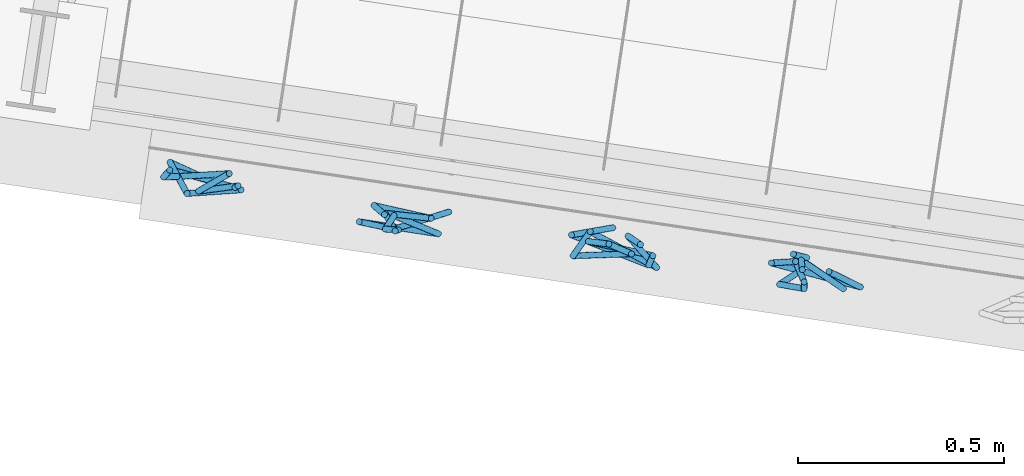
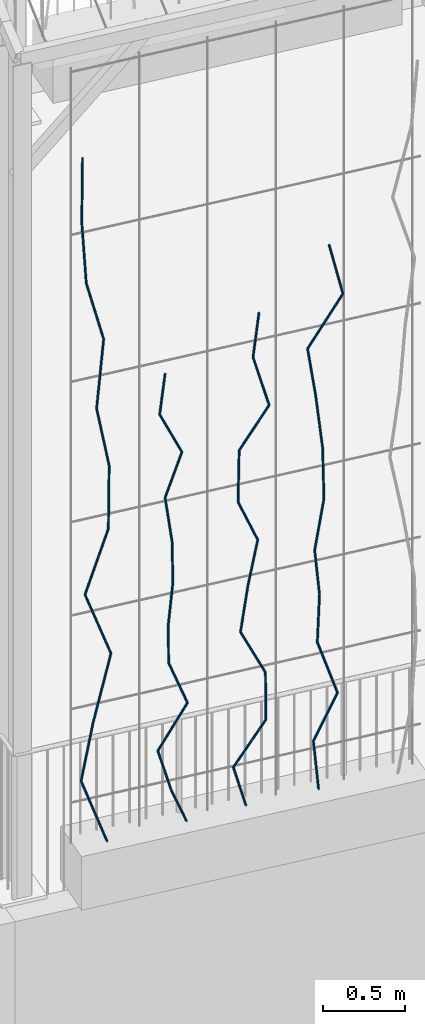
# One storey, part 102 of 142: 44 members, 1 element without a shape of its own.
"""IFC4 building model written with IfcOpenShell, lengths in metres."""

from ifc_helpers import new_model, si_unit, direction, frame, origin_with_axes, place, context, subcontext, project, spatial, circle, extrude, material, material_profile, profile_set, profile_usage, type_object, element, aggregate, save


model = new_model("IFC4")

# Units and contexts
model_context = context("Model", 3, precision=1e-05, world=origin_with_axes(), true_north=direction((0.0, 1.0)))
body_context = subcontext(model_context, "Body", "Model", "MODEL_VIEW")
ifc_project = project(units=[si_unit("VOLUMEUNIT", "CUBIC_METRE"), si_unit("LENGTHUNIT", "METRE"), si_unit("AREAUNIT", "SQUARE_METRE")], contexts=[model_context])

# Site, building, storey
site_placement = place(None, origin_with_axes())
site = spatial("IfcSite", under=ifc_project, at=site_placement, Name="Lares · Rua das Mercês · artigo 4771")
building_placement = place(site_placement, frame((12.0, 10.2, 13.9), z_axis=(0.0, 0.0, 1.0), x_axis=(0.989015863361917, -0.147809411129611, 0.0)))
building = spatial("IfcBuilding", under=site, at=building_placement, Name="Casa Sobreposta")
storey_placement = place(building_placement, origin_with_axes())
storey = spatial("IfcBuildingStorey", under=building, at=storey_placement, Name="00 · Habitação e estacionamento", Elevation=13.9)

# Assembly, members
assembly_placement = place(storey_placement, origin_with_axes())
assembly = element("IfcElementAssembly", 1, at=assembly_placement, inside=storey, Name="Fachada sul e pátio · estrutura e trepadeiras", ObjectType="LIVING_SHADE_TRELLIS", PredefinedType="USERDEFINED")
ifc_material = material(Name="Ramos de trepadeiras", Category="wood")
ifc_material_profile = material_profile(ifc_material, circle(Radius=0.0075))
ifc_profile_set = profile_set([ifc_material_profile], Name="D0.015")
ifc_profile_usage_1 = profile_usage(ifc_profile_set)
member_type = type_object("IfcMemberType", Name="D0.015 / vine_wood", PredefinedType="NOTDEFINED", material=ifc_profile_set)
member_1_placement = place(assembly_placement, frame((-5.48911948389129, -1.68313375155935, 0.35), z_axis=(-0.315042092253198, 0.0911891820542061, 0.944686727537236), x_axis=(0.278037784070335, 0.960570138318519, 0.0)))
member_1 = element("IfcMember", 2, at=member_1_placement, type_object=member_type, material=ifc_profile_usage_1, Name="Trepadeiras · ramo", context=body_context, shape_type="SweptSolid", body=[
    extrude(circle(Radius=0.0075), origin_with_axes(), (0.0, 0.0, 1.0), 0.495129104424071),
])
ifc_profile_usage_2 = profile_usage(ifc_profile_set)
member_2_placement = place(assembly_placement, frame((-5.64510599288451, -1.63798333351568, 0.817741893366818), z_axis=(0.109502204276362, -0.145033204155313, 0.983348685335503), x_axis=(-0.798074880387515, -0.602558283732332, 0.0)))
member_2 = element("IfcMember", 3, at=member_2_placement, type_object=member_type, material=ifc_profile_usage_2, Name="Trepadeiras · ramo", context=body_context, shape_type="SweptSolid", body=[
    extrude(circle(Radius=0.0075), origin_with_axes(), (0.0, 0.0, 1.0), 0.475662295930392),
])
ifc_profile_usage_3 = profile_usage(ifc_profile_set)
member_3_placement = place(assembly_placement, frame((-5.59301992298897, -1.70697016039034, 1.28548378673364), z_axis=(0.265195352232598, 0.0579298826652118, 0.962452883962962), x_axis=(0.213409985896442, -0.976962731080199, 0.0)))
member_3 = element("IfcMember", 4, at=member_3_placement, type_object=member_type, material=ifc_profile_usage_3, Name="Trepadeiras · ramo", context=body_context, shape_type="SweptSolid", body=[
    extrude(circle(Radius=0.0075), origin_with_axes(), (0.0, 0.0, 1.0), 0.485989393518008),
])
ifc_profile_usage_4 = profile_usage(ifc_profile_set)
member_4_placement = place(assembly_placement, frame((-5.46413779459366, -1.67881685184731, 1.75322568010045), z_axis=(-0.32848864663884, 0.0430845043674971, 0.943524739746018), x_axis=(0.130045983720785, 0.991507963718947, 0.0)))
member_4 = element("IfcMember", 5, at=member_4_placement, type_object=member_type, material=ifc_profile_usage_4, Name="Trepadeiras · ramo", context=body_context, shape_type="SweptSolid", body=[
    extrude(circle(Radius=0.0075), origin_with_axes(), (0.0, 0.0, 1.0), 0.495738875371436),
])
ifc_profile_usage_5 = profile_usage(ifc_profile_set)
member_5_placement = place(assembly_placement, frame((-5.62698238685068, -1.65745818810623, 2.22096757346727), z_axis=(0.300174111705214, -0.0360648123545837, 0.953202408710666), x_axis=(-0.119288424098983, -0.992859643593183, 0.0)))
member_5 = element("IfcMember", 6, at=member_5_placement, type_object=member_type, material=ifc_profile_usage_5, Name="Trepadeiras · ramo", context=body_context, shape_type="SweptSolid", body=[
    extrude(circle(Radius=0.0075), origin_with_axes(), (0.0, 0.0, 1.0), 0.490705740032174),
])
ifc_profile_usage_6 = profile_usage(ifc_profile_set)
member_6_placement = place(assembly_placement, frame((-5.47968522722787, -1.6751553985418, 2.68870946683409), z_axis=(0.0147543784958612, 0.0109734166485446, 0.999830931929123), x_axis=(0.999891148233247, -0.000161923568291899, -0.0147534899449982)))
member_6 = element("IfcMember", 7, at=member_6_placement, type_object=member_type, material=ifc_profile_usage_6, Name="Trepadeiras · ramo", context=body_context, shape_type="SweptSolid", body=[
    extrude(circle(Radius=0.0075), origin_with_axes(), (0.0, 0.0, 1.0), 0.467820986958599),
])
ifc_profile_usage_7 = profile_usage(ifc_profile_set)
member_7_placement = place(assembly_placement, frame((-5.47278281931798, -1.67002180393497, 3.15645136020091), z_axis=(-0.19496267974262, -0.0566235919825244, 0.979174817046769), x_axis=(-0.278907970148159, 0.960317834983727, 0.0)))
member_7 = element("IfcMember", 8, at=member_7_placement, type_object=member_type, material=ifc_profile_usage_7, Name="Trepadeiras · ramo", context=body_context, shape_type="SweptSolid", body=[
    extrude(circle(Radius=0.0075), origin_with_axes(), (0.0, 0.0, 1.0), 0.477689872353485),
])
ifc_profile_usage_8 = profile_usage(ifc_profile_set)
member_8_placement = place(assembly_placement, frame((-5.56591451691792, -1.6970703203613, 3.62419325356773), z_axis=(0.141678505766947, 0.112006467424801, 0.983555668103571), x_axis=(0.620172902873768, -0.784465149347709, 0.0)))
member_8 = element("IfcMember", 9, at=member_8_placement, type_object=member_type, material=ifc_profile_usage_8, Name="Trepadeiras · ramo", context=body_context, shape_type="SweptSolid", body=[
    extrude(circle(Radius=0.0075), origin_with_axes(), (0.0, 0.0, 1.0), 0.475562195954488),
])
ifc_profile_usage_9 = profile_usage(ifc_profile_set)
member_9_placement = place(assembly_placement, frame((-5.49853757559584, -1.64380427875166, 4.09193514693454), z_axis=(-0.257789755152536, -0.0541962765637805, 0.964679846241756), x_axis=(-0.205736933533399, 0.97860733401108, 0.0)))
member_9 = element("IfcMember", 10, at=member_9_placement, type_object=member_type, material=ifc_profile_usage_9, Name="Trepadeiras · ramo", context=body_context, shape_type="SweptSolid", body=[
    extrude(circle(Radius=0.0075), origin_with_axes(), (0.0, 0.0, 1.0), 0.484867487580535),
])
ifc_profile_usage_10 = profile_usage(ifc_profile_set)
member_10_placement = place(assembly_placement, frame((-5.62353144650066, -1.67008229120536, 4.55967704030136), z_axis=(-0.0676309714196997, -0.0113503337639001, 0.997645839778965), x_axis=(-0.165512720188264, 0.986207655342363, 0.0)))
member_10 = element("IfcMember", 11, at=member_10_placement, type_object=member_type, material=ifc_profile_usage_10, Name="Trepadeiras · ramo", context=body_context, shape_type="SweptSolid", body=[
    extrude(circle(Radius=0.0075), origin_with_axes(), (0.0, 0.0, 1.0), 0.468845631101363),
])
ifc_profile_usage_11 = profile_usage(ifc_profile_set)
member_11_placement = place(assembly_placement, frame((-5.65523993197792, -1.67540384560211, 5.02741893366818), z_axis=(0.0261045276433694, 0.0393084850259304, 0.99888607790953), x_axis=(0.833038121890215, -0.55321558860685, 0.0)))
member_11 = element("IfcMember", 12, at=member_11_placement, type_object=member_type, material=ifc_profile_usage_11, Name="Trepadeiras · ramo", context=body_context, shape_type="SweptSolid", body=[
    extrude(circle(Radius=0.0075), origin_with_axes(), (0.0, 0.0, 1.0), 0.468263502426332),
])
ifc_profile_usage_12 = profile_usage(ifc_profile_set)
member_12_placement = place(assembly_placement, frame((-4.95624243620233, -1.65711223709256, 0.35), z_axis=(-0.372606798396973, -0.180190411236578, 0.910327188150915), x_axis=(-0.435358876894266, 0.90025699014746, 0.0)))
member_12 = element("IfcMember", 13, at=member_12_placement, type_object=member_type, material=ifc_profile_usage_12, Name="Trepadeiras · ramo", context=body_context, shape_type="SweptSolid", body=[
    extrude(circle(Radius=0.0075), origin_with_axes(), (0.0, 0.0, 1.0), 0.340683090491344),
])
ifc_profile_usage_13 = profile_usage(ifc_profile_set)
member_13_placement = place(assembly_placement, frame((-5.0831832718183, -1.71850006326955, 0.660133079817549), z_axis=(-0.265741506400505, 0.0171143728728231, 0.963892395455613), x_axis=(0.0642691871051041, 0.997932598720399, 0.0)))
member_13 = element("IfcMember", 14, at=member_13_placement, type_object=member_type, material=ifc_profile_usage_13, Name="Trepadeiras · ramo", context=body_context, shape_type="SweptSolid", body=[
    extrude(circle(Radius=0.0075), origin_with_axes(), (0.0, 0.0, 1.0), 0.321750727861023),
])
ifc_profile_usage_14 = profile_usage(ifc_profile_set)
member_14_placement = place(assembly_placement, frame((-5.16868579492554, -1.71299350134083, 0.970266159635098), z_axis=(0.532535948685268, -0.00176824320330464, 0.84640553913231), x_axis=(-0.00332040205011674, -0.999994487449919, 0.0)))
member_14 = element("IfcMember", 15, at=member_14_placement, type_object=member_type, material=ifc_profile_usage_14, Name="Trepadeiras · ramo", context=body_context, shape_type="SweptSolid", body=[
    extrude(circle(Radius=0.0075), origin_with_axes(), (0.0, 0.0, 1.0), 0.366411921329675),
])
ifc_profile_usage_15 = profile_usage(ifc_profile_set)
member_15_placement = place(assembly_placement, frame((-4.97355827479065, -1.71364140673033, 1.28039923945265), z_axis=(-0.342385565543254, 0.0839938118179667, 0.935797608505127), x_axis=(0.238254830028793, 0.971202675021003, 0.0)))
member_15 = element("IfcMember", 16, at=member_15_placement, type_object=member_type, material=ifc_profile_usage_15, Name="Trepadeiras · ramo", context=body_context, shape_type="SweptSolid", body=[
    extrude(circle(Radius=0.0075), origin_with_axes(), (0.0, 0.0, 1.0), 0.331410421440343),
])
ifc_profile_usage_16 = profile_usage(ifc_profile_set)
member_16_placement = place(assembly_placement, frame((-5.08702841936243, -1.68580498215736, 1.5905323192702), z_axis=(-0.0515930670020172, -0.113887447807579, 0.992153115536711), x_axis=(-0.910889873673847, 0.412649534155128, 0.0)))
member_16 = element("IfcMember", 17, at=member_16_placement, type_object=member_type, material=ifc_profile_usage_16, Name="Trepadeiras · ramo", context=body_context, shape_type="SweptSolid", body=[
    extrude(circle(Radius=0.0075), origin_with_axes(), (0.0, 0.0, 1.0), 0.312585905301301),
])
ifc_profile_usage_17 = profile_usage(ifc_profile_set)
member_17_placement = place(assembly_placement, frame((-5.10315568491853, -1.72140459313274, 1.90066539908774), z_axis=(0.1015760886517, 0.00912740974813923, 0.994785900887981), x_axis=(0.0894972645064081, -0.995987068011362, 0.0)))
member_17 = element("IfcMember", 18, at=member_17_placement, type_object=member_type, material=ifc_profile_usage_17, Name="Trepadeiras · ramo", context=body_context, shape_type="SweptSolid", body=[
    extrude(circle(Radius=0.0075), origin_with_axes(), (0.0, 0.0, 1.0), 0.3117586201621),
])
ifc_profile_usage_18 = profile_usage(ifc_profile_set)
member_18_placement = place(assembly_placement, frame((-5.07148846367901, -1.71855904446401, 2.21079847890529), z_axis=(-0.0234443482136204, -0.011723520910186, 0.999656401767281), x_axis=(0.99972514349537, -0.00027492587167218, 0.0234427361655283)))
member_18 = element("IfcMember", 19, at=member_18_placement, type_object=member_type, material=ifc_profile_usage_18, Name="Trepadeiras · ramo", context=body_context, shape_type="SweptSolid", body=[
    extrude(circle(Radius=0.0075), origin_with_axes(), (0.0, 0.0, 1.0), 0.310239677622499),
])
ifc_profile_usage_19 = profile_usage(ifc_profile_set)
member_19_placement = place(assembly_placement, frame((-5.07876183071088, -1.72219614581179, 2.52093155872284), z_axis=(-0.0967626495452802, 0.123757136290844, 0.987583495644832), x_axis=(0.787785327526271, 0.615949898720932, 1.09054029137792e-17)))
member_19 = element("IfcMember", 20, at=member_19_placement, type_object=member_type, material=ifc_profile_usage_19, Name="Trepadeiras · ramo", context=body_context, shape_type="SweptSolid", body=[
    extrude(circle(Radius=0.0075), origin_with_axes(), (0.0, 0.0, 1.0), 0.31403226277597),
])
ifc_profile_usage_20 = profile_usage(ifc_profile_set)
member_20_placement = place(assembly_placement, frame((-5.10914842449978, -1.6833324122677, 2.83106463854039), z_axis=(0.341305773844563, 0.0133539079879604, 0.939857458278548), x_axis=(0.0390960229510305, -0.999235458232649, 0.0)))
member_20 = element("IfcMember", 21, at=member_20_placement, type_object=member_type, material=ifc_profile_usage_20, Name="Trepadeiras · ramo", context=body_context, shape_type="SweptSolid", body=[
    extrude(circle(Radius=0.0075), origin_with_axes(), (0.0, 0.0, 1.0), 0.329978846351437),
])
ifc_profile_usage_21 = profile_usage(ifc_profile_set)
member_21_placement = place(assembly_placement, frame((-4.99652473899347, -1.67892590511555, 3.14119771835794), z_axis=(-0.417229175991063, 0.0301594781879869, 0.908300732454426), x_axis=(0.0720970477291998, 0.997397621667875, 0.0)))
member_21 = element("IfcMember", 22, at=member_21_placement, type_object=member_type, material=ifc_profile_usage_21, Name="Trepadeiras · ramo", context=body_context, shape_type="SweptSolid", body=[
    extrude(circle(Radius=0.0075), origin_with_axes(), (0.0, 0.0, 1.0), 0.34144316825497),
])
ifc_profile_usage_22 = profile_usage(ifc_profile_set)
member_22_placement = place(assembly_placement, frame((-5.13898479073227, -1.66862815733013, 3.45133079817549), z_axis=(0.090956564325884, -0.0586912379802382, 0.99412385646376), x_axis=(-0.542189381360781, -0.840256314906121, 7.96559999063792e-18)))
member_22 = element("IfcMember", 23, at=member_22_placement, type_object=member_type, material=ifc_profile_usage_22, Name="Trepadeiras · ramo", context=body_context, shape_type="SweptSolid", body=[
    extrude(circle(Radius=0.0075), origin_with_axes(), (0.0, 0.0, 1.0), 0.311966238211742),
])
ifc_profile_usage_23 = profile_usage(ifc_profile_set)
member_23_placement = place(assembly_placement, frame((-4.55634403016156, -1.63616228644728, 0.35), z_axis=(-0.276433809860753, -0.091900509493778, 0.95662879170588), x_axis=(-0.315473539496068, 0.948934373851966, 0.0)))
member_23 = element("IfcMember", 24, at=member_23_placement, type_object=member_type, material=ifc_profile_usage_23, Name="Trepadeiras · ramo", context=body_context, shape_type="SweptSolid", body=[
    extrude(circle(Radius=0.0075), origin_with_axes(), (0.0, 0.0, 1.0), 0.351118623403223),
])
ifc_profile_usage_24 = profile_usage(ifc_profile_set)
member_24_placement = place(assembly_placement, frame((-4.65340508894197, -1.66843026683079, 0.685890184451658), z_axis=(0.502481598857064, -0.114154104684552, 0.857018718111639), x_axis=(-0.221535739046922, -0.975152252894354, 0.0)))
member_24 = element("IfcMember", 25, at=member_24_placement, type_object=member_type, material=ifc_profile_usage_24, Name="Trepadeiras · ramo", context=body_context, shape_type="SweptSolid", body=[
    extrude(circle(Radius=0.0075), origin_with_axes(), (0.0, 0.0, 1.0), 0.391928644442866),
])
ifc_profile_usage_25 = profile_usage(ifc_profile_set)
member_25_placement = place(assembly_placement, frame((-4.45646815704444, -1.7131705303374, 1.02178036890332), z_axis=(0.0188669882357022, 0.0713857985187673, 0.997270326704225), x_axis=(0.966803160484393, -0.255522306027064, 0.0)))
member_25 = element("IfcMember", 26, at=member_25_placement, type_object=member_type, material=ifc_profile_usage_25, Name="Trepadeiras · ramo", context=body_context, shape_type="SweptSolid", body=[
    extrude(circle(Radius=0.0075), origin_with_axes(), (0.0, 0.0, 1.0), 0.336809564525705),
])
ifc_profile_usage_26 = profile_usage(ifc_profile_set)
member_26_placement = place(assembly_placement, frame((-4.45011357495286, -1.68912711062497, 1.35767055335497), z_axis=(-0.429996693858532, 0.0300139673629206, 0.902331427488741), x_axis=(0.0696310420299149, 0.997572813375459, 0.0)))
member_26 = element("IfcMember", 27, at=member_26_placement, type_object=member_type, material=ifc_profile_usage_26, Name="Trepadeiras · ramo", context=body_context, shape_type="SweptSolid", body=[
    extrude(circle(Radius=0.0075), origin_with_axes(), (0.0, 0.0, 1.0), 0.372247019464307),
])
ifc_profile_usage_27 = profile_usage(ifc_profile_set)
member_27_placement = place(assembly_placement, frame((-4.61017856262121, -1.67795450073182, 1.69356073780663), z_axis=(0.146859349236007, 0.0033807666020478, 0.989151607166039), x_axis=(0.0230143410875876, -0.999735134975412, 0.0)))
member_27 = element("IfcMember", 28, at=member_27_placement, type_object=member_type, material=ifc_profile_usage_27, Name="Trepadeiras · ramo", context=body_context, shape_type="SweptSolid", body=[
    extrude(circle(Radius=0.0075), origin_with_axes(), (0.0, 0.0, 1.0), 0.339574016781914),
])
ifc_profile_usage_28 = profile_usage(ifc_profile_set)
member_28_placement = place(assembly_placement, frame((-4.56030894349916, -1.67680648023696, 2.02945092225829), z_axis=(0.170700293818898, -0.0452708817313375, 0.984282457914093), x_axis=(-0.256345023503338, -0.96658534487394, 0.0)))
member_28 = element("IfcMember", 29, at=member_28_placement, type_object=member_type, material=ifc_profile_usage_28, Name="Trepadeiras · ramo", context=body_context, shape_type="SweptSolid", body=[
    extrude(circle(Radius=0.0075), origin_with_axes(), (0.0, 0.0, 1.0), 0.341253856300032),
])
ifc_profile_usage_29 = profile_usage(ifc_profile_set)
member_29_placement = place(assembly_placement, frame((-4.50205680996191, -1.69225534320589, 2.36534110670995), z_axis=(-0.383356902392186, -0.0703629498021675, 0.920916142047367), x_axis=(-0.180528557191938, 0.983569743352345, 0.0)))
member_29 = element("IfcMember", 30, at=member_29_placement, type_object=member_type, material=ifc_profile_usage_29, Name="Trepadeiras · ramo", context=body_context, shape_type="SweptSolid", body=[
    extrude(circle(Radius=0.0075), origin_with_axes(), (0.0, 0.0, 1.0), 0.364734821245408),
])
ifc_profile_usage_30 = profile_usage(ifc_profile_set)
member_30_placement = place(assembly_placement, frame((-4.64188042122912, -1.71791916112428, 2.7012312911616), z_axis=(0.0946545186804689, 0.187214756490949, 0.977748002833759), x_axis=(0.8924216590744, -0.451202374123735, 0.0)))
member_30 = element("IfcMember", 31, at=member_30_placement, type_object=member_type, material=ifc_profile_usage_30, Name="Trepadeiras · ramo", context=body_context, shape_type="SweptSolid", body=[
    extrude(circle(Radius=0.0075), origin_with_axes(), (0.0, 0.0, 1.0), 0.343534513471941),
])
ifc_profile_usage_31 = profile_usage(ifc_profile_set)
member_31_placement = place(assembly_placement, frame((-4.6093633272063, -1.65360443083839, 3.03712147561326), z_axis=(0.451634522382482, -0.164332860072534, 0.876938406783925), x_axis=(-0.341930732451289, -0.939725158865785, 0.0)))
member_31 = element("IfcMember", 32, at=member_31_placement, type_object=member_type, material=ifc_profile_usage_31, Name="Trepadeiras · ramo", context=body_context, shape_type="SweptSolid", body=[
    extrude(circle(Radius=0.0075), origin_with_axes(), (0.0, 0.0, 1.0), 0.383025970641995),
])
ifc_profile_usage_32 = profile_usage(ifc_profile_set)
member_32_placement = place(assembly_placement, frame((-4.43637557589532, -1.71654818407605, 3.37301166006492), z_axis=(-0.228861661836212, 0.18656509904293, 0.955413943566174), x_axis=(0.631846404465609, 0.775093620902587, -2.24524086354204e-17)))
member_32 = element("IfcMember", 33, at=member_32_placement, type_object=member_type, material=ifc_profile_usage_32, Name="Trepadeiras · ramo", context=body_context, shape_type="SweptSolid", body=[
    extrude(circle(Radius=0.0075), origin_with_axes(), (0.0, 0.0, 1.0), 0.35156508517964),
])
ifc_profile_usage_33 = profile_usage(ifc_profile_set)
member_33_placement = place(assembly_placement, frame((-4.51683534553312, -1.65095840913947, 3.70890184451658), z_axis=(0.0978677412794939, -0.0463181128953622, 0.99412098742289), x_axis=(-0.427782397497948, -0.903881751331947, 0.0)))
member_33 = element("IfcMember", 34, at=member_33_placement, type_object=member_type, material=ifc_profile_usage_33, Name="Trepadeiras · ramo", context=body_context, shape_type="SweptSolid", body=[
    extrude(circle(Radius=0.0075), origin_with_axes(), (0.0, 0.0, 1.0), 0.337876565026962),
])
ifc_profile_usage_34 = profile_usage(ifc_profile_set)
member_34_placement = place(assembly_placement, frame((-4.07927187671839, -1.63851140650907, 0.35), z_axis=(-0.089545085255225, 0.00938715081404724, 0.995938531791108), x_axis=(0.10426023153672, 0.994550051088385, 0.0)))
member_34 = element("IfcMember", 35, at=member_34_placement, type_object=member_type, material=ifc_profile_usage_34, Name="Trepadeiras · ramo", context=body_context, shape_type="SweptSolid", body=[
    extrude(circle(Radius=0.0075), origin_with_axes(), (0.0, 0.0, 1.0), 0.372705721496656),
])
ifc_profile_usage_35 = profile_usage(ifc_profile_set)
member_35_placement = place(assembly_placement, frame((-4.11264584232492, -1.63501276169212, 0.721191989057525), z_axis=(0.333010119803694, -0.163515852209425, 0.928637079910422), x_axis=(-0.440756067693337, -0.897626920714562, 0.0)))
member_35 = element("IfcMember", 36, at=member_35_placement, type_object=member_type, material=ifc_profile_usage_35, Name="Trepadeiras · ramo", context=body_context, shape_type="SweptSolid", body=[
    extrude(circle(Radius=0.0075), origin_with_axes(), (0.0, 0.0, 1.0), 0.399716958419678),
])
ifc_profile_usage_36 = profile_usage(ifc_profile_set)
member_36_placement = place(assembly_placement, frame((-3.97953605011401, -1.70037282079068, 1.09238397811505), z_axis=(-0.285562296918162, 0.137481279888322, 0.948447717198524), x_axis=(0.433785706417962, 0.901016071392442, 0.0)))
member_36 = element("IfcMember", 37, at=member_36_placement, type_object=member_type, material=ifc_profile_usage_36, Name="Trepadeiras · ramo", context=body_context, shape_type="SweptSolid", body=[
    extrude(circle(Radius=0.0075), origin_with_axes(), (0.0, 0.0, 1.0), 0.391367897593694),
])
ifc_profile_usage_37 = profile_usage(ifc_profile_set)
member_37_placement = place(assembly_placement, frame((-4.0912959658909, -1.64656706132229, 1.46357596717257), z_axis=(0.0152066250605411, -0.0596993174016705, 0.998100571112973), x_axis=(-0.969056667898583, -0.246838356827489, 0.0)))
member_37 = element("IfcMember", 38, at=member_37_placement, type_object=member_type, material=ifc_profile_usage_37, Name="Trepadeiras · ramo", context=body_context, shape_type="SweptSolid", body=[
    extrude(circle(Radius=0.0075), origin_with_axes(), (0.0, 0.0, 1.0), 0.371898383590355),
])
ifc_profile_usage_38 = profile_usage(ifc_profile_set)
member_38_placement = place(assembly_placement, frame((-4.08564064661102, -1.66876914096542, 1.8347679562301), z_axis=(-0.130512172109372, -0.116153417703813, 0.984619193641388), x_axis=(-0.664819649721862, 0.747003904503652, -9.77620742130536e-18)))
member_38 = element("IfcMember", 39, at=member_38_placement, type_object=member_type, material=ifc_profile_usage_38, Name="Trepadeiras · ramo", context=body_context, shape_type="SweptSolid", body=[
    extrude(circle(Radius=0.0075), origin_with_axes(), (0.0, 0.0, 1.0), 0.376990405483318),
])
ifc_profile_usage_39 = profile_usage(ifc_profile_set)
member_39_placement = place(assembly_placement, frame((-4.13484248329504, -1.71255786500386, 2.20595994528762), z_axis=(0.161271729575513, -0.00372461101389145, 0.986903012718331), x_axis=(-0.0230890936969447, -0.99973341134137, 0.0)))
member_39 = element("IfcMember", 40, at=member_39_placement, type_object=member_type, material=ifc_profile_usage_39, Name="Trepadeiras · ramo", context=body_context, shape_type="SweptSolid", body=[
    extrude(circle(Radius=0.0075), origin_with_axes(), (0.0, 0.0, 1.0), 0.376118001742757),
])
ifc_profile_usage_40 = profile_usage(ifc_profile_set)
member_40_placement = place(assembly_placement, frame((-4.0741852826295, -1.71395875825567, 2.57715193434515), z_axis=(-0.00656626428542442, 0.0434886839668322, 0.999032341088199), x_axis=(0.99997844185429, 0.000285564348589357, 0.00656005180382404)))
member_40 = element("IfcMember", 41, at=member_40_placement, type_object=member_type, material=ifc_profile_usage_40, Name="Trepadeiras · ramo", context=body_context, shape_type="SweptSolid", body=[
    extrude(circle(Radius=0.0075), origin_with_axes(), (0.0, 0.0, 1.0), 0.371551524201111),
])
ifc_profile_usage_41 = profile_usage(ifc_profile_set)
member_41_placement = place(assembly_placement, frame((-4.07662498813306, -1.69780047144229, 2.94834392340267), z_axis=(-0.074266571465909, 0.123113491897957, 0.989609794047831), x_axis=(0.856267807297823, 0.516532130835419, 0.0)))
member_41 = element("IfcMember", 42, at=member_41_placement, type_object=member_type, material=ifc_profile_usage_41, Name="Trepadeiras · ramo", context=body_context, shape_type="SweptSolid", body=[
    extrude(circle(Radius=0.0075), origin_with_axes(), (0.0, 0.0, 1.0), 0.375089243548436),
])
ifc_profile_usage_42 = profile_usage(ifc_profile_set)
member_42_placement = place(assembly_placement, frame((-4.10448158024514, -1.65162192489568, 3.3195359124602), z_axis=(-0.154338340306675, -0.0328328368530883, 0.987472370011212), x_axis=(-0.20807667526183, 0.978112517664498, 0.0)))
member_42 = element("IfcMember", 43, at=member_42_placement, type_object=member_type, material=ifc_profile_usage_42, Name="Trepadeiras · ramo", context=body_context, shape_type="SweptSolid", body=[
    extrude(circle(Radius=0.0075), origin_with_axes(), (0.0, 0.0, 1.0), 0.375901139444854),
])
ifc_profile_usage_43 = profile_usage(ifc_profile_set)
member_43_placement = place(assembly_placement, frame((-4.16249753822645, -1.66396382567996, 3.69072790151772), z_axis=(0.514081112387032, -0.0596918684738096, 0.855662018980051), x_axis=(-0.115338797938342, -0.993326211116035, 0.0)))
member_43 = element("IfcMember", 44, at=member_43_placement, type_object=member_type, material=ifc_profile_usage_43, Name="Trepadeiras · ramo", context=body_context, shape_type="SweptSolid", body=[
    extrude(circle(Radius=0.0075), origin_with_axes(), (0.0, 0.0, 1.0), 0.433806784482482),
])
ifc_profile_usage_44 = profile_usage(ifc_profile_set)
member_44_placement = place(assembly_placement, frame((-3.93948566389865, -1.68985856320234, 4.06191989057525), z_axis=(-0.213455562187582, 0.0677286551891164, 0.974602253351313), x_axis=(0.302437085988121, 0.953169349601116, 0.0)))
member_44 = element("IfcMember", 45, at=member_44_placement, type_object=member_type, material=ifc_profile_usage_44, Name="Trepadeiras · ramo", context=body_context, shape_type="SweptSolid", body=[
    extrude(circle(Radius=0.0075), origin_with_axes(), (0.0, 0.0, 1.0), 0.380865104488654),
])
aggregate(assembly, [member_1, member_2, member_3, member_4, member_5, member_6, member_7, member_8, member_9, member_10, member_11, member_12, member_13, member_14, member_15, member_16, member_17, member_18, member_19, member_20, member_21, member_22, member_23, member_24, member_25, member_26, member_27, member_28, member_29, member_30, member_31, member_32, member_33, member_34, member_35, member_36, member_37, member_38, member_39, member_40, member_41, member_42, member_43, member_44])

save(model, "model.ifc")
